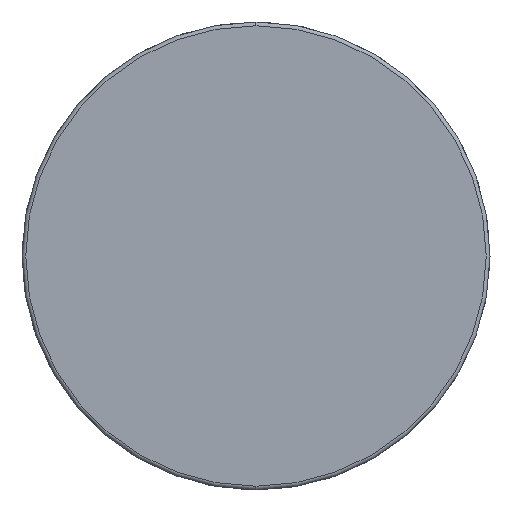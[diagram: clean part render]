
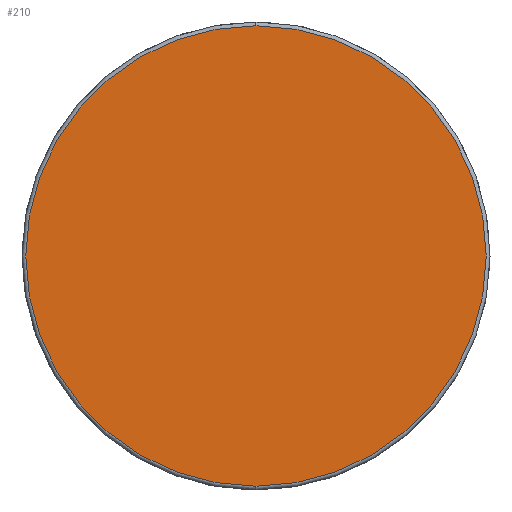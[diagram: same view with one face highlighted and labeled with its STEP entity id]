
A CAD part, left-side view. The second image highlights one B-rep face of the part: STEP entity #210.
In plain terms, the highlighted planar face has unit normal (-1, 0, 0).
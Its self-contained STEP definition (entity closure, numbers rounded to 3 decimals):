
#210 = ADVANCED_FACE ( 'NONE', ( #2421 ), #904, .F. ) ;
#229 = VERTEX_POINT ( 'NONE', #2807 ) ;
#329 = DIRECTION ( 'NONE',  ( 0., 0., -1. ) ) ;
#465 = DIRECTION ( 'NONE',  ( 0., 0., -1. ) ) ;
#530 = AXIS2_PLACEMENT_3D ( 'NONE', #4884, #1852, #3409 ) ;
#754 = CIRCLE ( 'NONE', #1402, 30.5 ) ;
#761 = EDGE_LOOP ( 'NONE', ( #2545, #3816 ) ) ;
#843 = EDGE_CURVE ( 'NONE', #3430, #229, #4924, .T. ) ;
#904 = PLANE ( 'NONE',  #2981 ) ;
#1242 = EDGE_CURVE ( 'NONE', #229, #3430, #754, .T. ) ;
#1391 = CARTESIAN_POINT ( 'NONE',  ( 0., 0., 0. ) ) ;
#1402 = AXIS2_PLACEMENT_3D ( 'NONE', #1391, #1438, #329 ) ;
#1438 = DIRECTION ( 'NONE',  ( -1., 0., 0. ) ) ;
#1852 = DIRECTION ( 'NONE',  ( -1., 0., 0. ) ) ;
#2421 = FACE_OUTER_BOUND ( 'NONE', #761, .T. ) ;
#2545 = ORIENTED_EDGE ( 'NONE', *, *, #843, .T. ) ;
#2807 = CARTESIAN_POINT ( 'NONE',  ( 0., 0., 30.5 ) ) ;
#2981 = AXIS2_PLACEMENT_3D ( 'NONE', #4364, #4665, #465 ) ;
#3409 = DIRECTION ( 'NONE',  ( 0., 0., -1. ) ) ;
#3430 = VERTEX_POINT ( 'NONE', #4018 ) ;
#3816 = ORIENTED_EDGE ( 'NONE', *, *, #1242, .T. ) ;
#4018 = CARTESIAN_POINT ( 'NONE',  ( 0., 0., -30.5 ) ) ;
#4364 = CARTESIAN_POINT ( 'NONE',  ( 0., 0., 0. ) ) ;
#4665 = DIRECTION ( 'NONE',  ( 1., 0., 0. ) ) ;
#4884 = CARTESIAN_POINT ( 'NONE',  ( 0., 0., 0. ) ) ;
#4924 = CIRCLE ( 'NONE', #530, 30.5 ) ;
